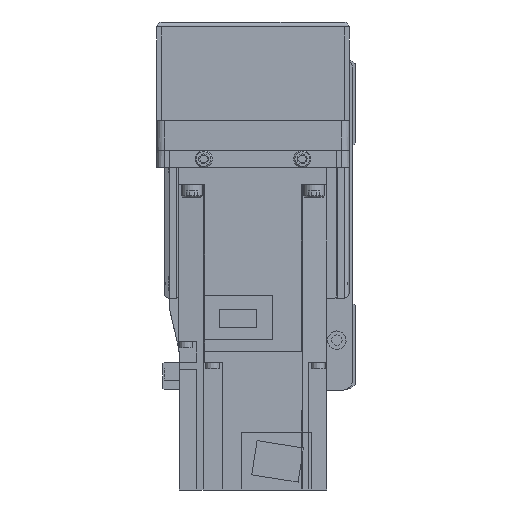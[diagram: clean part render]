
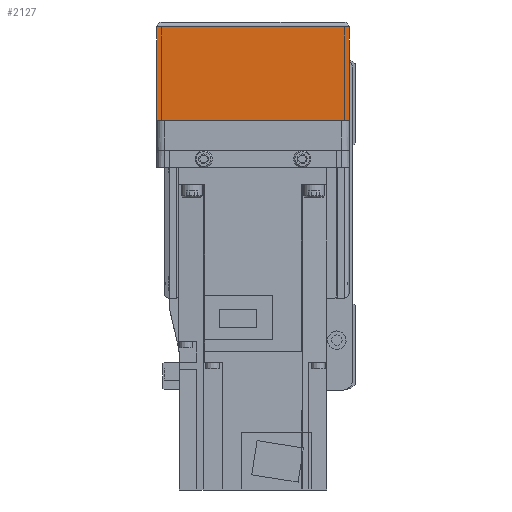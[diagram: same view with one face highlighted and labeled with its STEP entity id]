
A CAD part, left-side view. The second image highlights one B-rep face of the part: STEP entity #2127.
In plain terms, the highlighted planar face has unit normal (-1, 0, 0).
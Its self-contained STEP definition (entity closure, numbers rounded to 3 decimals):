
#2127 = ADVANCED_FACE( '', ( #5051 ), #5052, .F. );
#5051 = FACE_OUTER_BOUND( '', #8916, .T. );
#5052 = PLANE( '', #8917 );
#8916 = EDGE_LOOP( '', ( #14910, #14911, #14912, #14913 ) );
#8917 = AXIS2_PLACEMENT_3D( '', #14914, #14915, #14916 );
#14910 = ORIENTED_EDGE( '', *, *, #22477, .F. );
#14911 = ORIENTED_EDGE( '', *, *, #23145, .F. );
#14912 = ORIENTED_EDGE( '', *, *, #23293, .T. );
#14913 = ORIENTED_EDGE( '', *, *, #23294, .F. );
#14914 = CARTESIAN_POINT( '', ( -158., 36., 7. ) );
#14915 = DIRECTION( '', ( 1., 0., 0. ) );
#14916 = DIRECTION( '', ( 0., 0., -1. ) );
#22477 = EDGE_CURVE( '', #27161, #27163, #27164, .T. );
#23145 = EDGE_CURVE( '', #27528, #27161, #28219, .T. );
#23293 = EDGE_CURVE( '', #27528, #28450, #28451, .T. );
#23294 = EDGE_CURVE( '', #27163, #28450, #28452, .T. );
#27161 = VERTEX_POINT( '', #34417 );
#27163 = VERTEX_POINT( '', #34420 );
#27164 = LINE( '', #34421, #34422 );
#27528 = VERTEX_POINT( '', #34938 );
#28219 = LINE( '', #36013, #36014 );
#28450 = VERTEX_POINT( '', #36347 );
#28451 = LINE( '', #36348, #36349 );
#28452 = LINE( '', #36350, #36351 );
#34417 = CARTESIAN_POINT( '', ( -158., 39., -12.1 ) );
#34420 = CARTESIAN_POINT( '', ( -158., -39., -12.1 ) );
#34421 = CARTESIAN_POINT( '', ( -158., 50., -12.1 ) );
#34422 = VECTOR( '', #41632, 1000. );
#34938 = CARTESIAN_POINT( '', ( -158., 39., -50. ) );
#36013 = CARTESIAN_POINT( '', ( -158., 39., -50. ) );
#36014 = VECTOR( '', #42421, 1000. );
#36347 = CARTESIAN_POINT( '', ( -158., -39., -50. ) );
#36348 = CARTESIAN_POINT( '', ( -158., 40., -50. ) );
#36349 = VECTOR( '', #42617, 1000. );
#36350 = CARTESIAN_POINT( '', ( -158., -39., -12.1 ) );
#36351 = VECTOR( '', #42618, 1000. );
#41632 = DIRECTION( '', ( 0., -1., 0. ) );
#42421 = DIRECTION( '', ( 0., 0., 1. ) );
#42617 = DIRECTION( '', ( 0., -1., 0. ) );
#42618 = DIRECTION( '', ( 0., 0., -1. ) );
